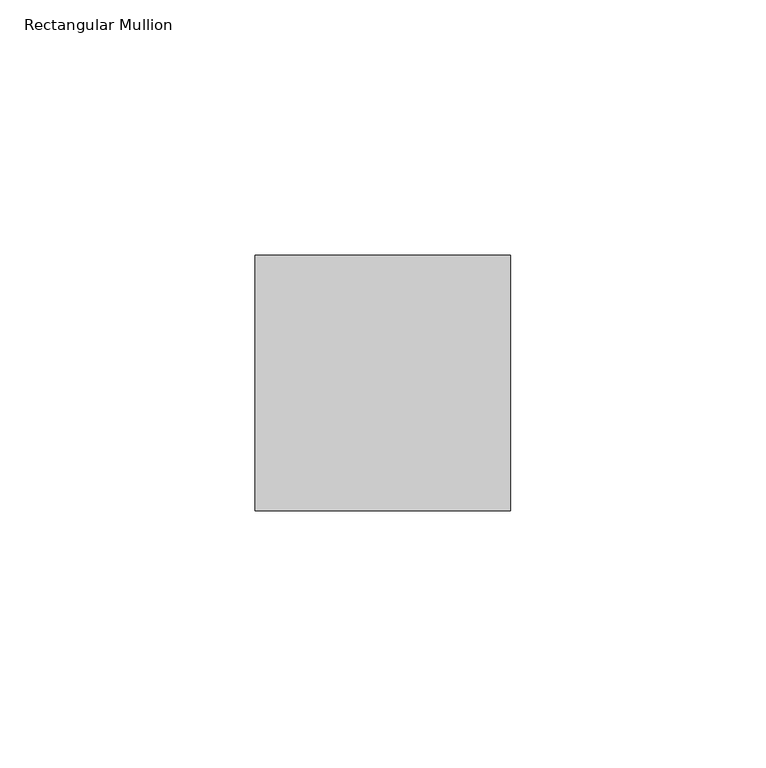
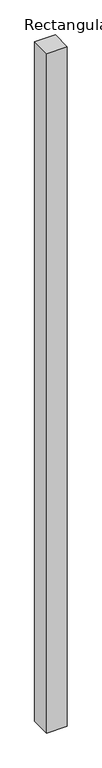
"""IFC4 building model written with IfcOpenShell, lengths in millimetres: member geometry, Rectangular Mullion : Mullion_Curtain Wall_Generic Showcase_50x50mm."""

from ifc_helpers import new_model, si_unit, frame, origin, place, context, project, spatial, polyline, outline, extrude, source, transform, mapped, element, save


def rectangular_mullion_0d59ba85(model_context):
    return source(origin(), model_context, "Body", "SweptSolid", [
        extrude(outline(polyline([(0.0, 0.0), (0.0, -50.0), (-50.0, -50.0), (-50.0, 0.0), (0.0, 0.0)])), frame((0.0, 0.0, -1738.479996), z_axis=(0.0, 0.0, 1.0), x_axis=(1.0, 0.0, 0.0)), (0.0, 0.0, 1.0), 1738.479996),
    ])


if __name__ == "__main__":
    model = new_model("IFC4")
    model_context = context("Model", 3, world=origin())
    ifc_project = project(units=[si_unit("LENGTHUNIT", "METRE", prefix="MILLI")], contexts=[model_context])
    site = spatial("IfcSite", under=ifc_project)
    building = spatial("IfcBuilding", under=site)
    placement = place(None, origin())
    rectangular_mullion_shape = rectangular_mullion_0d59ba85(model_context)
    element("IfcMember", 1, ObjectType="Rectangular Mullion : Mullion_Curtain Wall_Generic Showcase_50x50mm", at=placement, inside=building, context=model_context, shape_type="MappedRepresentation", body=[
        mapped(rectangular_mullion_shape, transform((0.0, 0.0, 0.0), x_axis=(1.0, 0.0, 0.0), y_axis=(0.0, 1.0, 0.0), z_axis=(0.0, 0.0, 1.0))),
    ])
    save(model, "model.ifc")
